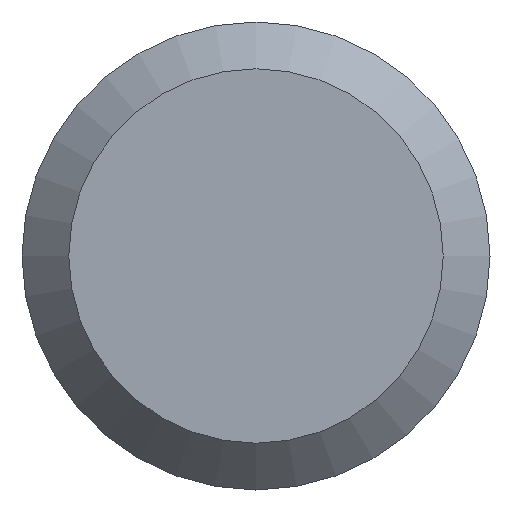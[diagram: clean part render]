
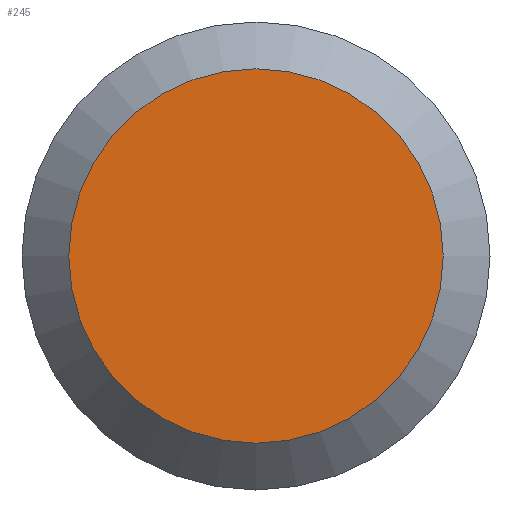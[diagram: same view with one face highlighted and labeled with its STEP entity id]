
A CAD part, left-side view. The second image highlights one B-rep face of the part: STEP entity #245.
In plain terms, the highlighted planar face has unit normal (-1, 0, 0).
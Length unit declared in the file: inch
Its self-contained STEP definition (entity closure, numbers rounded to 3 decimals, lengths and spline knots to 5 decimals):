
#4 = DIRECTION ( 'NONE',  ( 0., 0., -1. ) ) ;
#44 = PLANE ( 'NONE',  #205 ) ;
#52 = VERTEX_POINT ( 'NONE', #91 ) ;
#75 = DIRECTION ( 'NONE',  ( 0., 0., -1. ) ) ;
#84 = CARTESIAN_POINT ( 'NONE',  ( 0., 0.04975, 0. ) ) ;
#91 = CARTESIAN_POINT ( 'NONE',  ( 0., 0., -0.0398 ) ) ;
#108 = CARTESIAN_POINT ( 'NONE',  ( 0., 0., 0. ) ) ;
#119 = DIRECTION ( 'NONE',  ( 1., 0., 0. ) ) ;
#141 = ORIENTED_EDGE ( 'NONE', *, *, #246, .T. ) ;
#164 = CIRCLE ( 'NONE', #175, 0.0398 ) ;
#175 = AXIS2_PLACEMENT_3D ( 'NONE', #108, #214, #75 ) ;
#179 = FACE_OUTER_BOUND ( 'NONE', #212, .T. ) ;
#205 = AXIS2_PLACEMENT_3D ( 'NONE', #84, #119, #4 ) ;
#212 = EDGE_LOOP ( 'NONE', ( #141 ) ) ;
#214 = DIRECTION ( 'NONE',  ( -1., 0., 0. ) ) ;
#245 = ADVANCED_FACE ( 'NONE', ( #179 ), #44, .F. ) ;
#246 = EDGE_CURVE ( 'NONE', #52, #52, #164, .T. ) ;
